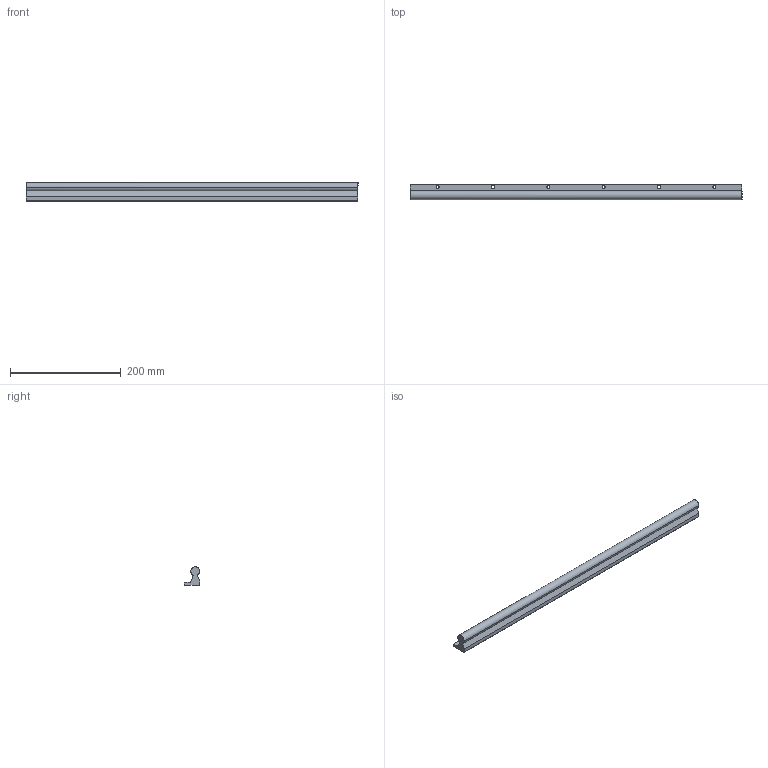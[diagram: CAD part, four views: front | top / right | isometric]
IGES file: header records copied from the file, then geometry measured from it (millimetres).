
Global section: file name: No Iges File Name specified; native system: AutoDesk Inventor R10; preprocessor: AutoDesk Inventor Iges Exporter R10; author: No Author specified; organization: No Organization specified; date: 20101221.090256; units: millimetre
Bounding box: 600 x 28 x 33 mm (x, y, z)
Surface area: 74330.1 mm2 (no closed solid volume)
Topology: 0 solids, 0 shells, 125 faces, 814 edges, 802 vertices
Faces by surface type: bspline 125
